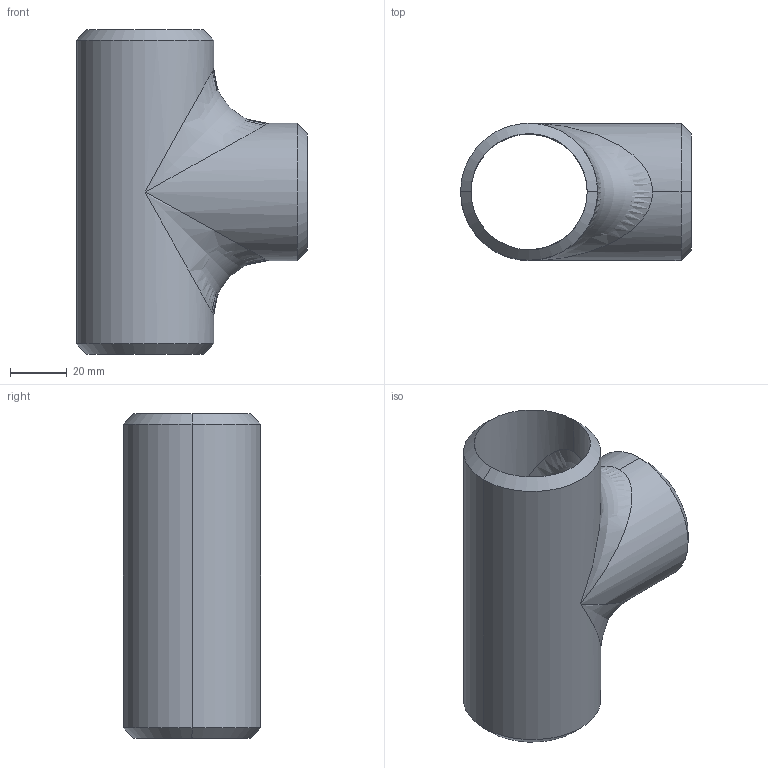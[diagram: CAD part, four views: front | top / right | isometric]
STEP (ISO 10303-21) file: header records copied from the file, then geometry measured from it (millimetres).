
FILE_DESCRIPTION (( 'STEP AP203' ), '1' );
FILE_NAME ('3D_R266_1 1-2x40S_173445140.STEP', '2024-08-23T10:56:50', ( '' ), ( '' ), 'SwSTEP 2.0', 'SolidWorks 2024', '' );
FILE_SCHEMA (( 'CONFIG_CONTROL_DESIGN' ));
Length unit declared in the file: millimetre
Products named in the file (1): 3D_R266_1 1-2x40S_173445140
Bounding box: 81.35 x 48.3 x 114.4 mm (x, y, z)
Volume: 70092.3 mm3; surface area: 40166.6 mm2
Topology: 1 solids, 1 shells, 21 faces, 58 edges, 30 vertices
Faces by surface type: cylinder 8, cone 6, bspline 4, plane 3
Entity records: 1315 total; most frequent: CARTESIAN_POINT 794, ORIENTED_EDGE 100, DIRECTION 88, EDGE_CURVE 50, AXIS2_PLACEMENT_3D 36, VERTEX_POINT 30, EDGE_LOOP 24, FACE_OUTER_BOUND 21
